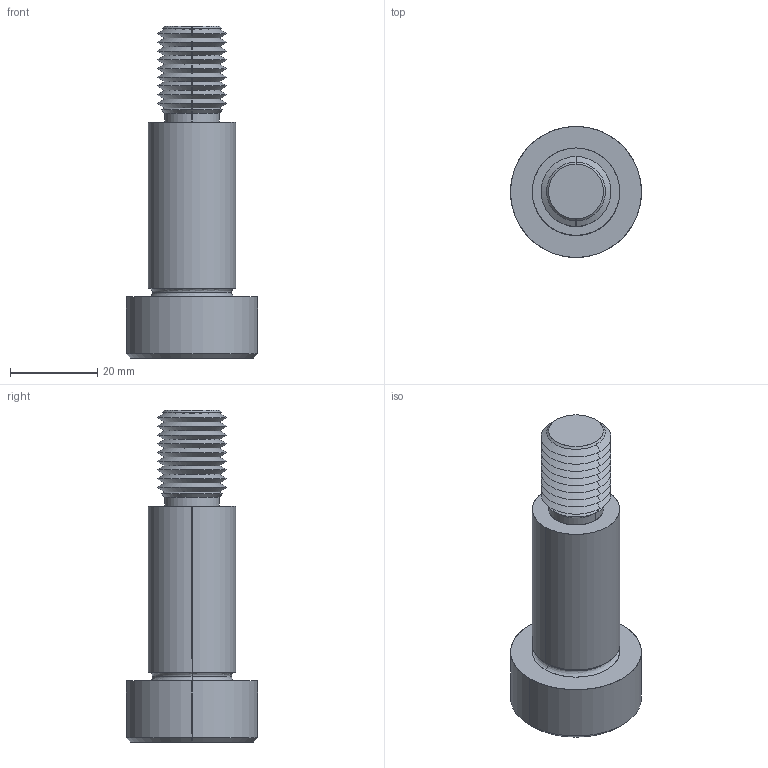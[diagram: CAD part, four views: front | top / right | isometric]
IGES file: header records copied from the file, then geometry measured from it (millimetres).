
Start section: SolidWorks IGES file using analytic representation for surfaces
Global section: file name: C:\Users\IanO\Documents\Temp Folder\GENERAL\SCREW REVISION\P0130_v2\P0130.T5_v2_20220106_IGES\P0130.200-040-T5.igs; native system: SolidWorks 2019; preprocessor: SolidWorks 2019; author: IanO; date: 220106.225936; units: millimetre
Bounding box: 30 x 30 x 76 mm (x, y, z)
Surface area: 7431.3 mm2 (no closed solid volume)
Topology: 0 solids, 0 shells, 80 faces, 692 edges, 690 vertices
Faces by surface type: revolution 60, bspline 20
